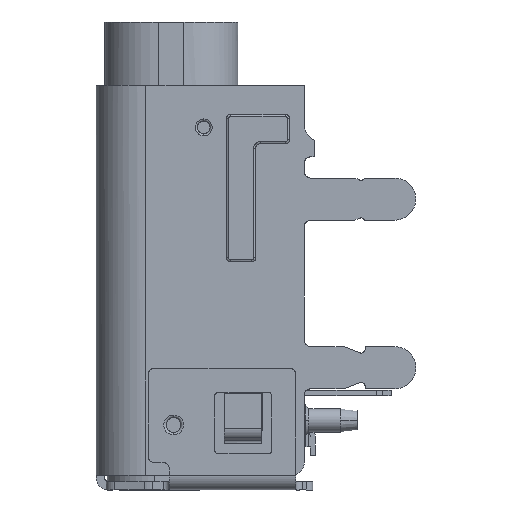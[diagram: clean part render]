
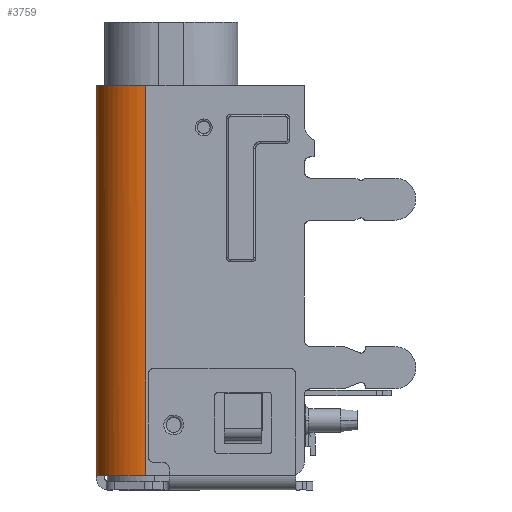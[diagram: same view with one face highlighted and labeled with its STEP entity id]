
A CAD part, left-side view. The second image highlights one B-rep face of the part: STEP entity #3759.
In plain terms, the highlighted cylindrical face has radius 1.18 mm (diameter 2.36 mm), a partial arc.
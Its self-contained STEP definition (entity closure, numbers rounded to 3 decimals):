
#3759 = ADVANCED_FACE ( 'NONE', ( #23618 ), #79875, .T. ) ;
#4231 = CARTESIAN_POINT ( 'NONE',  ( 11.552, 6.213, -17.591 ) ) ;
#5398 = CARTESIAN_POINT ( 'NONE',  ( 10.52, 6.799, -8.341 ) ) ;
#6514 = CARTESIAN_POINT ( 'NONE',  ( 11.7, 5.619, -8.341 ) ) ;
#9784 = DIRECTION ( 'NONE',  ( 1., 0., 0. ) ) ;
#10139 = CARTESIAN_POINT ( 'NONE',  ( 11.7, 5.619, -8.341 ) ) ;
#10435 = CARTESIAN_POINT ( 'NONE',  ( 11.7, 5.619, -11.424 ) ) ;
#10886 = VERTEX_POINT ( 'NONE', #32478 ) ;
#13383 = CARTESIAN_POINT ( 'NONE',  ( 10.52, 6.799, -17.591 ) ) ;
#13489 = EDGE_CURVE ( 'NONE', #86085, #88253, #22329, .T. ) ;
#14198 = CARTESIAN_POINT ( 'NONE',  ( 10.52, 6.799, -8.341 ) ) ;
#17429 = DIRECTION ( 'NONE',  ( 0., 0., 1. ) ) ;
#17511 = CARTESIAN_POINT ( 'NONE',  ( 11.115, 6.65, -17.591 ) ) ;
#20326 = CARTESIAN_POINT ( 'NONE',  ( 10.52, 6.799, -11.424 ) ) ;
#22329 = B_SPLINE_CURVE_WITH_KNOTS ( 'NONE', 3,
 ( #90660, #66122, #35425, #4231, #35939, #79450, #17511, #56917, #80966, #48767 ),
 .UNSPECIFIED., .F., .F.,
 ( 4, 2, 2, 2, 4 ),
 ( 0., 0.25, 0.5, 0.75, 1. ),
 .UNSPECIFIED. ) ;
#23618 = FACE_OUTER_BOUND ( 'NONE', #93452, .T. ) ;
#25344 = ORIENTED_EDGE ( 'NONE', *, *, #58569, .T. ) ;
#26487 = CARTESIAN_POINT ( 'NONE',  ( 11.246, 6.563, -8.341 ) ) ;
#29553 = CARTESIAN_POINT ( 'NONE',  ( 10.52, 6.799, -14.508 ) ) ;
#32478 = CARTESIAN_POINT ( 'NONE',  ( 10.52, 6.799, -8.341 ) ) ;
#33548 = EDGE_CURVE ( 'NONE', #10886, #77429, #49057, .T. ) ;
#35425 = CARTESIAN_POINT ( 'NONE',  ( 11.67, 5.928, -17.591 ) ) ;
#35939 = CARTESIAN_POINT ( 'NONE',  ( 11.464, 6.344, -17.591 ) ) ;
#36596 = CARTESIAN_POINT ( 'NONE',  ( 11.552, 6.213, -8.341 ) ) ;
#37675 = AXIS2_PLACEMENT_3D ( 'NONE', #88041, #17429, #9784 ) ;
#46642 = EDGE_CURVE ( 'NONE', #10886, #88253, #59636, .T. ) ;
#48767 = CARTESIAN_POINT ( 'NONE',  ( 10.52, 6.799, -17.591 ) ) ;
#49046 = CARTESIAN_POINT ( 'NONE',  ( 10.829, 6.768, -8.341 ) ) ;
#49057 = B_SPLINE_CURVE_WITH_KNOTS ( 'NONE', 3,
 ( #5398, #56691, #49046, #72573, #26487, #73080, #36596, #80238, #57698, #10139 ),
 .UNSPECIFIED., .F., .F.,
 ( 4, 2, 2, 2, 4 ),
 ( 0., 0.25, 0.5, 0.75, 1. ),
 .UNSPECIFIED. ) ;
#49340 = CARTESIAN_POINT ( 'NONE',  ( 11.7, 5.619, -8.341 ) ) ;
#49843 = CARTESIAN_POINT ( 'NONE',  ( 11.7, 5.619, -17.591 ) ) ;
#51581 = CARTESIAN_POINT ( 'NONE',  ( 10.52, 6.799, -17.591 ) ) ;
#56691 = CARTESIAN_POINT ( 'NONE',  ( 10.675, 6.799, -8.341 ) ) ;
#56917 = CARTESIAN_POINT ( 'NONE',  ( 10.829, 6.768, -17.591 ) ) ;
#57698 = CARTESIAN_POINT ( 'NONE',  ( 11.7, 5.774, -8.341 ) ) ;
#58569 = EDGE_CURVE ( 'NONE', #77429, #86085, #68345, .T. ) ;
#59048 = ORIENTED_EDGE ( 'NONE', *, *, #13489, .T. ) ;
#59636 = B_SPLINE_CURVE_WITH_KNOTS ( 'NONE', 3,
 ( #14198, #20326, #29553, #51581 ),
 .UNSPECIFIED., .F., .F.,
 ( 4, 4 ),
 ( 0., 1. ),
 .UNSPECIFIED. ) ;
#65322 = ORIENTED_EDGE ( 'NONE', *, *, #33548, .T. ) ;
#66122 = CARTESIAN_POINT ( 'NONE',  ( 11.7, 5.774, -17.591 ) ) ;
#68345 = B_SPLINE_CURVE_WITH_KNOTS ( 'NONE', 3,
 ( #49340, #10435, #96391, #49843 ),
 .UNSPECIFIED., .F., .F.,
 ( 4, 4 ),
 ( 0., 1. ),
 .UNSPECIFIED. ) ;
#68539 = ORIENTED_EDGE ( 'NONE', *, *, #46642, .F. ) ;
#72573 = CARTESIAN_POINT ( 'NONE',  ( 11.115, 6.65, -8.341 ) ) ;
#73080 = CARTESIAN_POINT ( 'NONE',  ( 11.464, 6.344, -8.341 ) ) ;
#77429 = VERTEX_POINT ( 'NONE', #6514 ) ;
#79450 = CARTESIAN_POINT ( 'NONE',  ( 11.246, 6.563, -17.591 ) ) ;
#79875 = CYLINDRICAL_SURFACE ( 'NONE', #37675, 1.18 ) ;
#80238 = CARTESIAN_POINT ( 'NONE',  ( 11.67, 5.928, -8.341 ) ) ;
#80966 = CARTESIAN_POINT ( 'NONE',  ( 10.675, 6.799, -17.591 ) ) ;
#86085 = VERTEX_POINT ( 'NONE', #93012 ) ;
#88041 = CARTESIAN_POINT ( 'NONE',  ( 10.52, 5.619, -8.341 ) ) ;
#88253 = VERTEX_POINT ( 'NONE', #13383 ) ;
#90660 = CARTESIAN_POINT ( 'NONE',  ( 11.7, 5.619, -17.591 ) ) ;
#93012 = CARTESIAN_POINT ( 'NONE',  ( 11.7, 5.619, -17.591 ) ) ;
#93452 = EDGE_LOOP ( 'NONE', ( #65322, #25344, #59048, #68539 ) ) ;
#96391 = CARTESIAN_POINT ( 'NONE',  ( 11.7, 5.619, -14.508 ) ) ;
